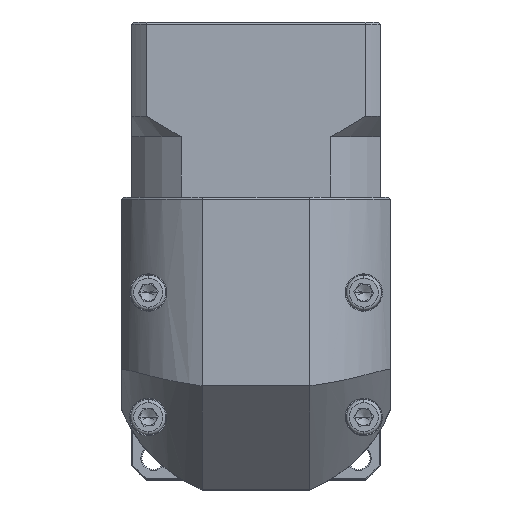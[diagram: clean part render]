
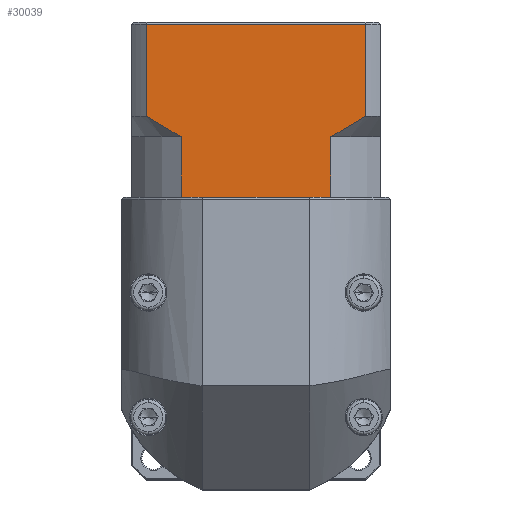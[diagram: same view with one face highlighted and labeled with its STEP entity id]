
A CAD part, top view. The second image highlights one B-rep face of the part: STEP entity #30039.
In plain terms, the highlighted planar face has unit normal (0, 0, 1).
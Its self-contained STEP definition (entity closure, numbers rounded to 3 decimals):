
#217 = CARTESIAN_POINT ( 'NONE',  ( -87.441, 84.738, 62.797 ) ) ;
#386 = B_SPLINE_CURVE_WITH_KNOTS ( 'NONE', 3,
 ( #91755, #103349, #50152, #112572, #6229, #40048 ),
 .UNSPECIFIED., .F., .F.,
 ( 4, 2, 4 ),
 ( 0.1, 0.104, 0.109 ),
 .UNSPECIFIED. ) ;
#1343 = CARTESIAN_POINT ( 'NONE',  ( -86.062, 83.865, 62.797 ) ) ;
#3394 = CARTESIAN_POINT ( 'NONE',  ( -92.343, 108.338, 62.797 ) ) ;
#6229 = CARTESIAN_POINT ( 'NONE',  ( -37.249, 84.736, 62.797 ) ) ;
#8904 = ORIENTED_EDGE ( 'NONE', *, *, #69939, .F. ) ;
#9039 = CARTESIAN_POINT ( 'NONE',  ( -79.38, 66.138, 62.797 ) ) ;
#10686 = LINE ( 'NONE', #20737, #109295 ) ;
#11476 = DIRECTION ( 'NONE',  ( 0., -1., 0. ) ) ;
#12263 = DIRECTION ( 'NONE',  ( 0., 0., -1. ) ) ;
#14325 = EDGE_CURVE ( 'NONE', #20694, #88366, #94918, .T. ) ;
#18538 = EDGE_CURVE ( 'NONE', #26946, #26633, #93228, .T. ) ;
#19782 = EDGE_CURVE ( 'NONE', #93019, #20694, #51297, .T. ) ;
#20342 = DIRECTION ( 'NONE',  ( 0., 1., 0. ) ) ;
#20694 = VERTEX_POINT ( 'NONE', #29848 ) ;
#20737 = CARTESIAN_POINT ( 'NONE',  ( -88.801, 80.638, 62.797 ) ) ;
#21937 = AXIS2_PLACEMENT_3D ( 'NONE', #3394, #12263, #39152 ) ;
#23493 = VECTOR ( 'NONE', #94368, 1000. ) ;
#24773 = VECTOR ( 'NONE', #11476, 1000. ) ;
#24831 = ORIENTED_EDGE ( 'NONE', *, *, #69259, .F. ) ;
#25056 = VERTEX_POINT ( 'NONE', #57024 ) ;
#26633 = VERTEX_POINT ( 'NONE', #52608 ) ;
#26696 = DIRECTION ( 'NONE',  ( 1., 0., 0. ) ) ;
#26946 = VERTEX_POINT ( 'NONE', #50181 ) ;
#29848 = CARTESIAN_POINT ( 'NONE',  ( -45.307, 66.138, 62.797 ) ) ;
#30039 = ADVANCED_FACE ( 'NONE', ( #112451 ), #38754, .F. ) ;
#33028 = VERTEX_POINT ( 'NONE', #112892 ) ;
#33049 = VECTOR ( 'NONE', #51173, 1000. ) ;
#35089 = ORIENTED_EDGE ( 'NONE', *, *, #65908, .F. ) ;
#35302 = LINE ( 'NONE', #81568, #45001 ) ;
#36389 = CARTESIAN_POINT ( 'NONE',  ( -80.371, 80.638, 62.797 ) ) ;
#37321 = EDGE_LOOP ( 'NONE', ( #46558, #88396, #24831, #98290, #8904, #52545, #52126, #73494, #35089, #72931 ) ) ;
#38754 = PLANE ( 'NONE',  #21937 ) ;
#39152 = DIRECTION ( 'NONE',  ( 0., 1., 0. ) ) ;
#40048 = CARTESIAN_POINT ( 'NONE',  ( -35.886, 85.638, 62.797 ) ) ;
#40715 = VECTOR ( 'NONE', #49940, 1000. ) ;
#45001 = VECTOR ( 'NONE', #26696, 1000. ) ;
#46558 = ORIENTED_EDGE ( 'NONE', *, *, #55968, .F. ) ;
#49694 = CARTESIAN_POINT ( 'NONE',  ( -92.343, 66.138, 62.797 ) ) ;
#49940 = DIRECTION ( 'NONE',  ( 1., 0., 0. ) ) ;
#50083 = CARTESIAN_POINT ( 'NONE',  ( -35.886, 80.638, 62.797 ) ) ;
#50152 = CARTESIAN_POINT ( 'NONE',  ( -41.434, 82.188, 62.797 ) ) ;
#50181 = CARTESIAN_POINT ( 'NONE',  ( -88.801, 85.638, 62.797 ) ) ;
#51173 = DIRECTION ( 'NONE',  ( -1., 0., 0. ) ) ;
#51297 = LINE ( 'NONE', #49694, #23493 ) ;
#52126 = ORIENTED_EDGE ( 'NONE', *, *, #19782, .T. ) ;
#52545 = ORIENTED_EDGE ( 'NONE', *, *, #109627, .T. ) ;
#52608 = CARTESIAN_POINT ( 'NONE',  ( -80.371, 80.638, 62.797 ) ) ;
#53453 = CARTESIAN_POINT ( 'NONE',  ( -81.823, 81.386, 62.797 ) ) ;
#55404 = CARTESIAN_POINT ( 'NONE',  ( -44.316, 80.638, 62.797 ) ) ;
#55968 = EDGE_CURVE ( 'NONE', #91725, #58076, #100636, .T. ) ;
#57024 = CARTESIAN_POINT ( 'NONE',  ( -44.316, 80.638, 62.797 ) ) ;
#58076 = VERTEX_POINT ( 'NONE', #65469 ) ;
#60173 = VERTEX_POINT ( 'NONE', #73150 ) ;
#62804 = CARTESIAN_POINT ( 'NONE',  ( -88.801, 85.638, 62.797 ) ) ;
#65469 = CARTESIAN_POINT ( 'NONE',  ( -35.886, 85.638, 62.797 ) ) ;
#65908 = EDGE_CURVE ( 'NONE', #25056, #88366, #87483, .T. ) ;
#66093 = CARTESIAN_POINT ( 'NONE',  ( -44.316, 66.138, 62.797 ) ) ;
#69259 = EDGE_CURVE ( 'NONE', #26946, #33028, #10686, .T. ) ;
#69939 = EDGE_CURVE ( 'NONE', #60173, #26633, #100787, .T. ) ;
#71002 = CARTESIAN_POINT ( 'NONE',  ( -83.255, 82.189, 62.797 ) ) ;
#72931 = ORIENTED_EDGE ( 'NONE', *, *, #91167, .T. ) ;
#73150 = CARTESIAN_POINT ( 'NONE',  ( -80.371, 66.138, 62.797 ) ) ;
#73494 = ORIENTED_EDGE ( 'NONE', *, *, #14325, .T. ) ;
#73953 = CARTESIAN_POINT ( 'NONE',  ( -35.886, 107.838, 62.797 ) ) ;
#74336 = DIRECTION ( 'NONE',  ( 0., 1., 0. ) ) ;
#76180 = DIRECTION ( 'NONE',  ( 0., -1., 0. ) ) ;
#76891 = CARTESIAN_POINT ( 'NONE',  ( -92.343, 107.838, 62.797 ) ) ;
#77530 = CARTESIAN_POINT ( 'NONE',  ( -92.343, 66.138, 62.797 ) ) ;
#78950 = EDGE_CURVE ( 'NONE', #91725, #33028, #112258, .T. ) ;
#81568 = CARTESIAN_POINT ( 'NONE',  ( -92.343, 66.138, 62.797 ) ) ;
#83653 = CARTESIAN_POINT ( 'NONE',  ( -80.371, 80.638, 62.797 ) ) ;
#87483 = LINE ( 'NONE', #55404, #24773 ) ;
#88366 = VERTEX_POINT ( 'NONE', #66093 ) ;
#88396 = ORIENTED_EDGE ( 'NONE', *, *, #78950, .T. ) ;
#91167 = EDGE_CURVE ( 'NONE', #25056, #58076, #386, .T. ) ;
#91725 = VERTEX_POINT ( 'NONE', #73953 ) ;
#91755 = CARTESIAN_POINT ( 'NONE',  ( -44.316, 80.638, 62.797 ) ) ;
#93019 = VERTEX_POINT ( 'NONE', #9039 ) ;
#93228 = B_SPLINE_CURVE_WITH_KNOTS ( 'NONE', 3,
 ( #62804, #217, #1343, #71002, #53453, #36389 ),
 .UNSPECIFIED., .F., .F.,
 ( 4, 2, 4 ),
 ( 0.052, 0.057, 0.062 ),
 .UNSPECIFIED. ) ;
#94368 = DIRECTION ( 'NONE',  ( 1., 0., 0. ) ) ;
#94918 = LINE ( 'NONE', #77530, #40715 ) ;
#98056 = VECTOR ( 'NONE', #74336, 1000. ) ;
#98290 = ORIENTED_EDGE ( 'NONE', *, *, #18538, .T. ) ;
#100636 = LINE ( 'NONE', #50083, #108915 ) ;
#100787 = LINE ( 'NONE', #83653, #98056 ) ;
#103349 = CARTESIAN_POINT ( 'NONE',  ( -42.859, 81.388, 62.797 ) ) ;
#108915 = VECTOR ( 'NONE', #76180, 1000. ) ;
#109295 = VECTOR ( 'NONE', #20342, 1000. ) ;
#109627 = EDGE_CURVE ( 'NONE', #60173, #93019, #35302, .T. ) ;
#112258 = LINE ( 'NONE', #76891, #33049 ) ;
#112451 = FACE_OUTER_BOUND ( 'NONE', #37321, .T. ) ;
#112572 = CARTESIAN_POINT ( 'NONE',  ( -38.628, 83.862, 62.797 ) ) ;
#112892 = CARTESIAN_POINT ( 'NONE',  ( -88.801, 107.838, 62.797 ) ) ;
